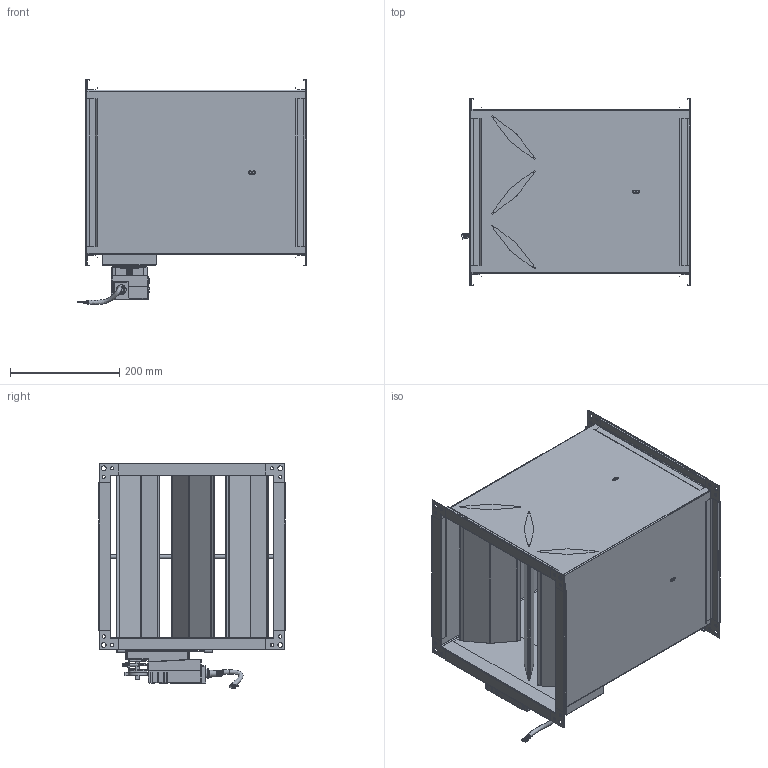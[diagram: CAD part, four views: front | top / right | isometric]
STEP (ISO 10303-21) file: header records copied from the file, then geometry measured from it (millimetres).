
FILE_DESCRIPTION (( 'STEP AP214' ), '1' );
FILE_NAME ('VAV-S300300.STEP', '2025-05-07T13:38:18', ( '' ), ( '' ), 'SwSTEP 2.0', 'SolidWorks 2025', '' );
FILE_SCHEMA (( 'AUTOMOTIVE_DESIGN' ));
Length unit declared in the file: millimetre
Products named in the file (1): VAV-S300300
Bounding box: 420.4 x 341 x 411.69 mm (x, y, z)
Surface area: 1730505.4 mm2 (no closed solid volume)
Topology: 0 solids, 58 shells, 2088 faces, 5381 edges, 3420 vertices
Faces by surface type: plane 1531, cylinder 504, bspline 24, sphere 18, cone 10, torus 1
Full cylindrical faces by diameter (mm): 1 x4, 4 x8, 6 x17, 8 x1, 9 x8, 11 x1, 20 x1, 21 x2
Entity records: 91252 total; most frequent: CARTESIAN_POINT 41670, ORIENTED_EDGE 10529, DIRECTION 6744, EDGE_CURVE 5288, VERTEX_POINT 3391, B_SPLINE_CURVE_WITH_KNOTS 3162, AXIS2_PLACEMENT_3D 2585, EDGE_LOOP 2298
